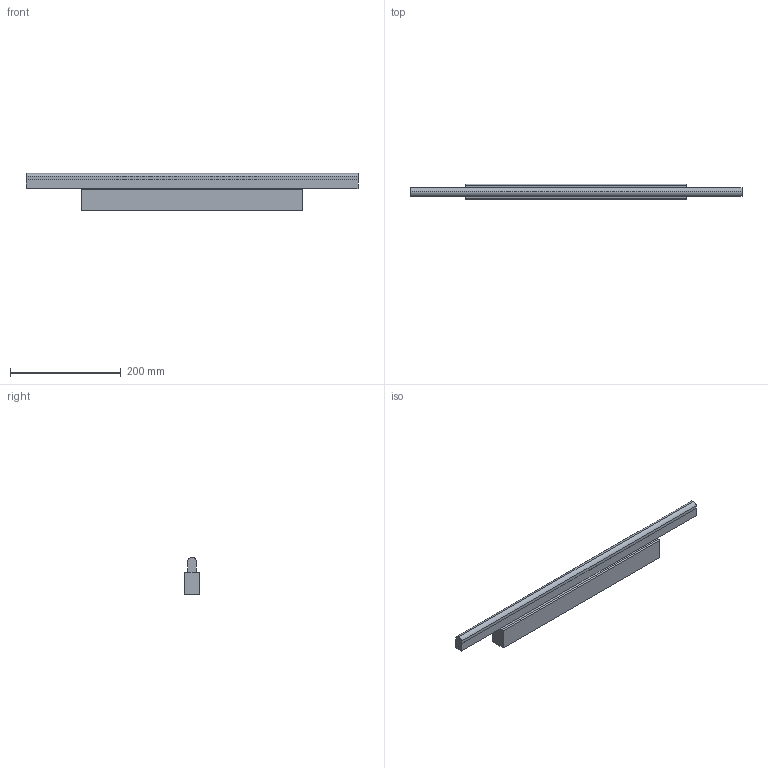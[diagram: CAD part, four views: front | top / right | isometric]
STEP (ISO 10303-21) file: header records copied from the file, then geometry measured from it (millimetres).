
FILE_DESCRIPTION (( 'STEP AP203' ), '1' );
FILE_NAME ('TAB LED 9595 3D MODEL.STEP', '2016-10-04T15:42:45', ( 'Utente' ), ( '' ), 'SwSTEP 2.0', 'SolidWorks 2016', '' );
FILE_SCHEMA (( 'CONFIG_CONTROL_DESIGN' ));
Length unit declared in the file: millimetre
Products named in the file (1): TAB LED 9595 3D MODEL
Bounding box: 600 x 27.96 x 67.51 mm (x, y, z)
Volume: 682028.8 mm3; surface area: 92245.3 mm2
Topology: 1 solids, 1 shells, 21 faces, 53 edges, 34 vertices
Faces by surface type: plane 17, cylinder 4
Entity records: 700 total; most frequent: CARTESIAN_POINT 109, ORIENTED_EDGE 106, DIRECTION 105, EDGE_CURVE 53, LINE 45, VECTOR 45, VERTEX_POINT 34, AXIS2_PLACEMENT_3D 30
